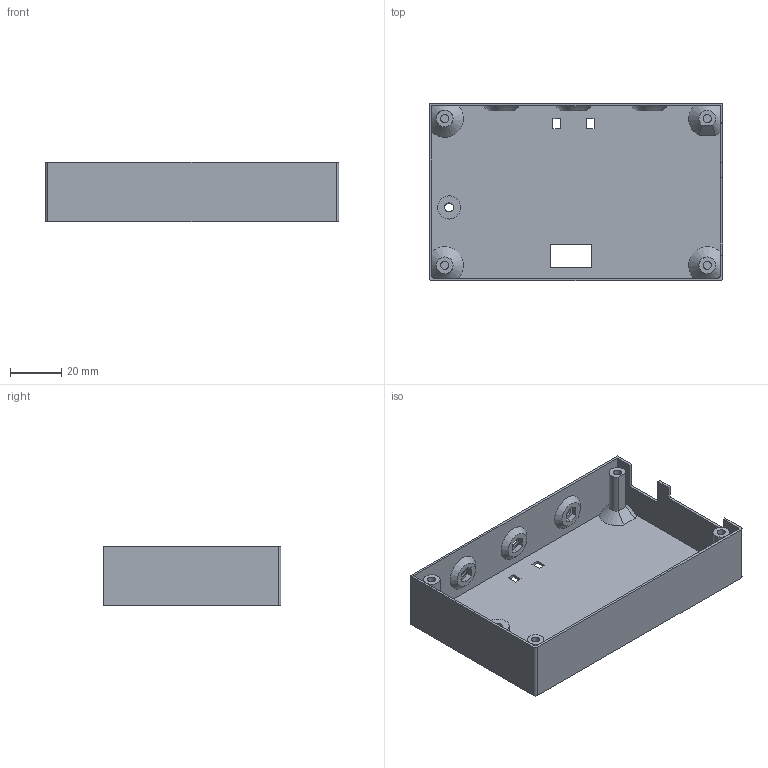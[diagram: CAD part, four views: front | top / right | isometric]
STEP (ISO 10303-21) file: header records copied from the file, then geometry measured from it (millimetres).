
FILE_DESCRIPTION(/* description */ (''),/* implementation_level */ '2;1');
FILE_NAME(/* name */ 'D:\3D печать\Мои проекты\Archy MK 2\STEP\дисплей корпус.stp',/* time_stamp */ '2019-03-20T22:10:30+06:00',/* author */ ('Пользователь'),/* organization */ (''),/* preprocessor_version */ 'ST-DEVELOPER v16.5',/* originating_system */ 'Autodesk Inventor 2017',/* authorisation */ '');
FILE_SCHEMA (('AUTOMOTIVE_DESIGN { 1 0 10303 214 3 1 1 }'));
Length unit declared in the file: millimetre
Products named in the file (1): дисплей \X2\043A043E0440043F
04430441\X0\
Bounding box: 114 x 69 x 23 mm (x, y, z)
Volume: 19739.4 mm3; surface area: 33666.4 mm2
Topology: 1 solids, 1 shells, 89 faces, 241 edges, 175 vertices
Faces by surface type: plane 65, cylinder 17, cone 7
Full cylindrical faces by diameter (mm): 3.2 x4, 3.5 x4, 6.5 x3, 9 x1
Entity records: 2712 total; most frequent: CARTESIAN_POINT 518, DIRECTION 431, ORIENTED_EDGE 404, EDGE_CURVE 202, LINE 157, VECTOR 157, VERTEX_POINT 144, AXIS2_PLACEMENT_3D 137
